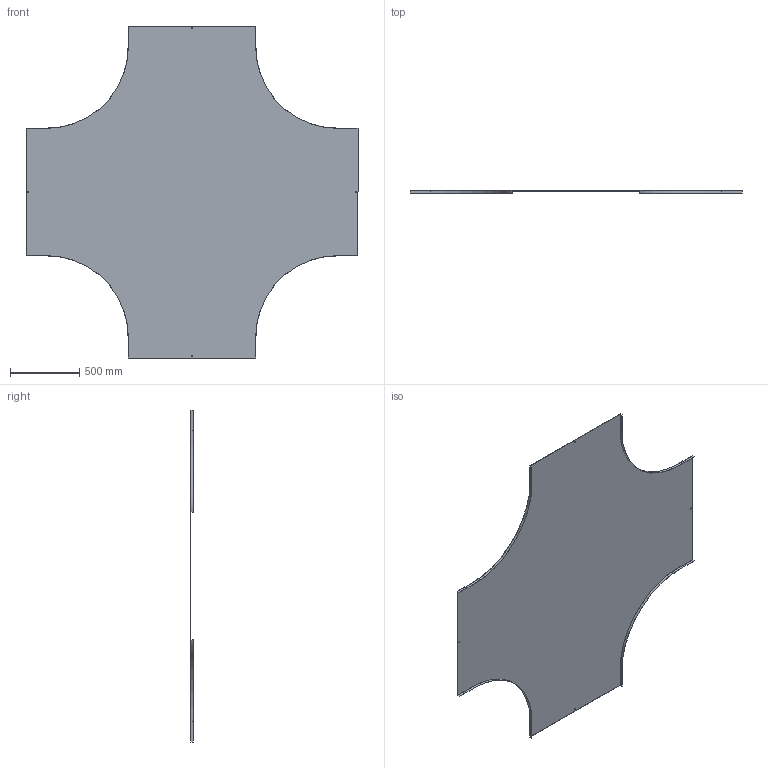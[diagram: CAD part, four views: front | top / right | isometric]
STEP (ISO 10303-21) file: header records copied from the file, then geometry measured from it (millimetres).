
FILE_DESCRIPTION (( 'STEP AP214' ), '1' );
FILE_NAME ('17N6P900.step', '2025-02-21T13:57:55', ( '' ), ( '' ), 'SwSTEP 2.0', 'SolidWorks 2023', '' );
FILE_SCHEMA (( 'AUTOMOTIVE_DESIGN' ));
Length unit declared in the file: millimetre
Products named in the file (1): 17N6P900
Bounding box: 2400 x 20 x 2400 mm (x, y, z)
Volume: 5949337.4 mm3; surface area: 7945742.4 mm2
Topology: 1 solids, 1 shells, 50 faces, 144 edges, 96 vertices
Faces by surface type: plane 42, cylinder 8
Entity records: 1663 total; most frequent: CARTESIAN_POINT 291, ORIENTED_EDGE 288, DIRECTION 262, EDGE_CURVE 144, LINE 128, VECTOR 128, VERTEX_POINT 96, AXIS2_PLACEMENT_3D 67
